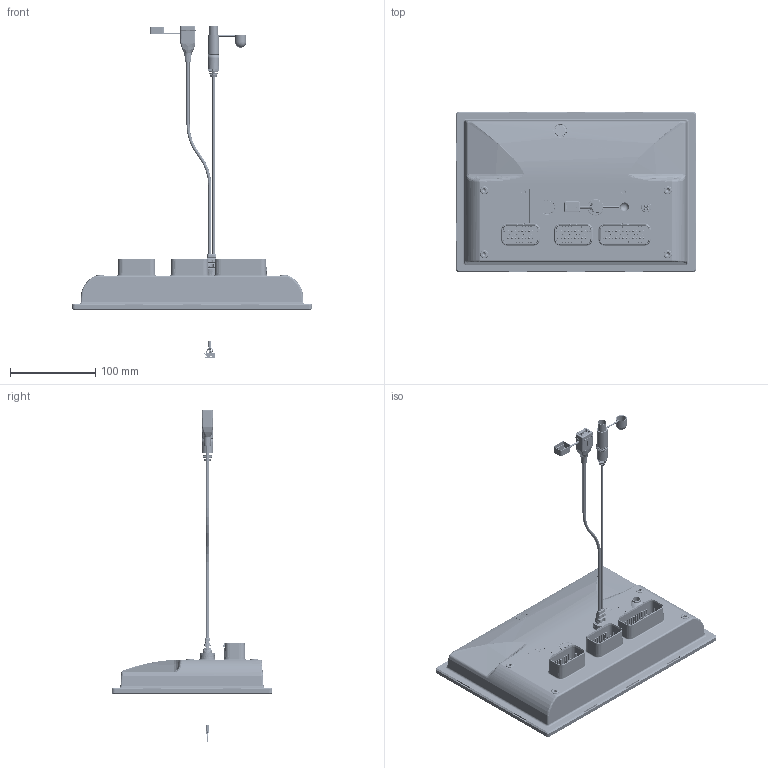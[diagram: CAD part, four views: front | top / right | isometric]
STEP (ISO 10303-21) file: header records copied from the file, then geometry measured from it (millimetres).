
FILE_DESCRIPTION (( 'STEP AP203' ), '1' );
FILE_NAME ('78350672stp.STEP', '2016-08-02T17:19:11', ( '' ), ( '' ), 'SwSTEP 2.0', 'SolidWorks 2015', '' );
FILE_SCHEMA (( 'CONFIG_CONTROL_DESIGN' ));
Length unit declared in the file: millimetre
Products named in the file (32): MOLEX_5040500691; 78440672_INSTALLED; 78051455; 78051470; 78001150_INSTALLED; 78350672stp; 78051453; 78051428; 78051461_INSTALLED; 80074700_80074700; 78051469-1_Installed state; 78051072; 78051416; 78051469_INSTALLED; 78051480_DEFAULT; JST_SM02B-BHSS-1-TB; 78001160_INSTALLED; 78051455-1_WithoutHeatsink; JST_BHSR-02VS-1; 78051473-1; JAE_FI-S20P-HFE-E1500; 78051460_Installed; 78051455-2; MOLEX_5040510601; SM10B-SHLS-TF; 78050880; 78051455-3; 78051473_installed; SM12B-SHLS-TF; 00031892; 78051455-4; 78051437_INSTALLED
Assembly tree (122 placements, depth 5):
  78350672stp
    78440672_INSTALLED
      78001150_INSTALLED
        78051455
          78051455-1_WithoutHeatsink
          78051455-2  x5
          78051455-3  x81
          78051455-4  x4
        78051453
        80074700_80074700  x6
        78051416
        JST_SM02B-BHSS-1-TB
        JAE_FI-S20P-HFE-E1500
        SM10B-SHLS-TF
        SM12B-SHLS-TF
        MOLEX_5040500691
      78051461_INSTALLED
      78051072
      78051473_installed
        78051480_DEFAULT
        78051473-1
        MOLEX_5040510601
      78001160_INSTALLED
        78051437_INSTALLED
        78051470
        78051469_INSTALLED
          78051428
          78051469-1_Installed state
      78051460_Installed
      78050880
      00031892
  JST_BHSR-02VS-1
Bounding box: 281.46 x 188.46 x 389 mm (x, y, z)
Volume: 874762.4 mm3; surface area: 715235 mm2
Topology: 174 solids, 174 shells, 16221 faces, 40815 edges, 25657 vertices
Faces by surface type: plane 5948, bspline 4712, cylinder 3192, cone 1337, torus 922, sphere 110
Entity records: 320208 total; most frequent: CARTESIAN_POINT 120370, ORIENTED_EDGE 42396, DIRECTION 37114, EDGE_CURVE 21198, VERTEX_POINT 13554, AXIS2_PLACEMENT_3D 12401, LINE 12312, VECTOR 12312
